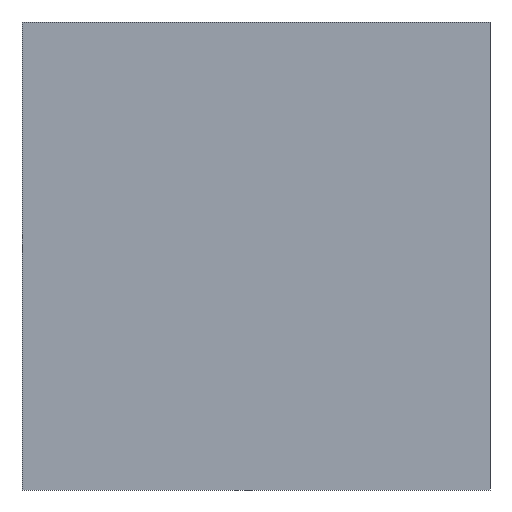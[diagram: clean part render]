
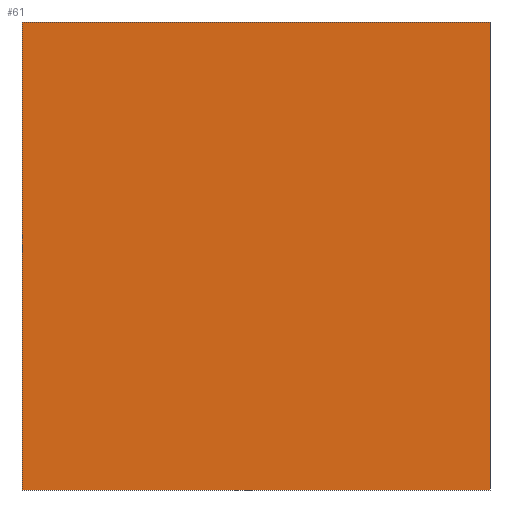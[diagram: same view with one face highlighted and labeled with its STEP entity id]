
A CAD part, front view. The second image highlights one B-rep face of the part: STEP entity #61.
In plain terms, the highlighted planar face has unit normal (0, -1, 0).
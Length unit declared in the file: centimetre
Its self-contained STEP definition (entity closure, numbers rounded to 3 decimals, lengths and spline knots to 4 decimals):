
#16 = DIRECTION ( 'NONE',  ( 0., 0., -1. ) ) ;
#23 = CARTESIAN_POINT ( 'NONE',  ( 0., 0., 1000. ) ) ;
#33 = VERTEX_POINT ( 'NONE', #178 ) ;
#61 = ADVANCED_FACE ( 'NONE', ( #419 ), #507, .F. ) ;
#71 = VECTOR ( 'NONE', #16, 100. ) ;
#93 = EDGE_LOOP ( 'NONE', ( #162, #133, #299, #300 ) ) ;
#100 = DIRECTION ( 'NONE',  ( 1., 0., 0. ) ) ;
#104 = CARTESIAN_POINT ( 'NONE',  ( 1000., 0., 0. ) ) ;
#114 = VERTEX_POINT ( 'NONE', #104 ) ;
#129 = EDGE_CURVE ( 'NONE', #130, #33, #379, .T. ) ;
#130 = VERTEX_POINT ( 'NONE', #199 ) ;
#133 = ORIENTED_EDGE ( 'NONE', *, *, #468, .F. ) ;
#162 = ORIENTED_EDGE ( 'NONE', *, *, #181, .T. ) ;
#178 = CARTESIAN_POINT ( 'NONE',  ( 1000., 0., 1000. ) ) ;
#181 = EDGE_CURVE ( 'NONE', #528, #114, #372, .T. ) ;
#199 = CARTESIAN_POINT ( 'NONE',  ( 0., 0., 1000. ) ) ;
#203 = DIRECTION ( 'NONE',  ( 0., 0., -1. ) ) ;
#240 = CARTESIAN_POINT ( 'NONE',  ( 0., 0., 1000. ) ) ;
#243 = DIRECTION ( 'NONE',  ( 0., 0., 1. ) ) ;
#299 = ORIENTED_EDGE ( 'NONE', *, *, #129, .F. ) ;
#300 = ORIENTED_EDGE ( 'NONE', *, *, #335, .T. ) ;
#332 = DIRECTION ( 'NONE',  ( 0., 1., 0. ) ) ;
#335 = EDGE_CURVE ( 'NONE', #130, #528, #370, .T. ) ;
#351 = AXIS2_PLACEMENT_3D ( 'NONE', #546, #332, #243 ) ;
#354 = CARTESIAN_POINT ( 'NONE',  ( 0., 0., 0. ) ) ;
#370 = LINE ( 'NONE', #240, #71 ) ;
#372 = LINE ( 'NONE', #420, #396 ) ;
#373 = VECTOR ( 'NONE', #203, 100. ) ;
#379 = LINE ( 'NONE', #23, #416 ) ;
#385 = LINE ( 'NONE', #395, #373 ) ;
#395 = CARTESIAN_POINT ( 'NONE',  ( 1000., 0., 1000. ) ) ;
#396 = VECTOR ( 'NONE', #513, 100. ) ;
#416 = VECTOR ( 'NONE', #100, 100. ) ;
#419 = FACE_OUTER_BOUND ( 'NONE', #93, .T. ) ;
#420 = CARTESIAN_POINT ( 'NONE',  ( 0., 0., 0. ) ) ;
#468 = EDGE_CURVE ( 'NONE', #33, #114, #385, .T. ) ;
#507 = PLANE ( 'NONE',  #351 ) ;
#513 = DIRECTION ( 'NONE',  ( 1., 0., 0. ) ) ;
#528 = VERTEX_POINT ( 'NONE', #354 ) ;
#546 = CARTESIAN_POINT ( 'NONE',  ( 0., 0., 1000. ) ) ;
